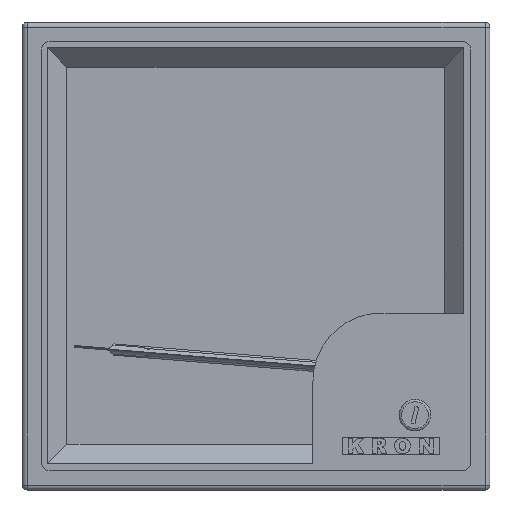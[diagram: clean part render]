
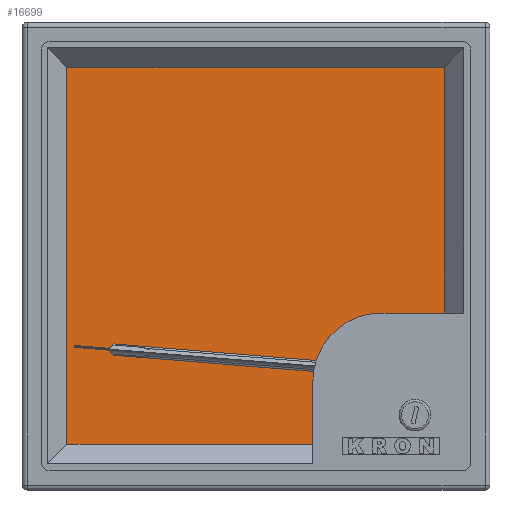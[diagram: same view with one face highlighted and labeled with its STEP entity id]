
A CAD part, top view. The second image highlights one B-rep face of the part: STEP entity #16699.
In plain terms, the highlighted planar face has unit normal (0, 0, 1).
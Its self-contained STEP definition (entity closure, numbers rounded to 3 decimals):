
#979=CIRCLE('',#18068,8.5);
#981=CIRCLE('',#18077,0.3);
#983=CIRCLE('',#18081,0.3);
#985=CIRCLE('',#18085,0.3);
#987=CIRCLE('',#18089,0.3);
#989=CIRCLE('',#18093,0.3);
#991=CIRCLE('',#18097,0.3);
#1830=FACE_OUTER_BOUND('',#2807,.T.);
#2807=EDGE_LOOP('',(#13635,#13636,#13637,#13638,#13639,#13640,#13641,#13642,
#13643,#13644,#13645,#13646,#13647,#13648,#13649,#13650,#13651,#13652,#13653,
#13654,#13655,#13656,#13657,#13658,#13659));
#4330=LINE('',#26961,#6064);
#4333=LINE('',#26967,#6067);
#4336=LINE('',#26973,#6070);
#4340=LINE('',#26985,#6074);
#4343=LINE('',#26991,#6077);
#4346=LINE('',#26997,#6080);
#4349=LINE('',#27003,#6083);
#4352=LINE('',#27009,#6086);
#4355=LINE('',#27015,#6089);
#4359=LINE('',#27027,#6093);
#4363=LINE('',#27039,#6097);
#4367=LINE('',#27051,#6101);
#4371=LINE('',#27063,#6105);
#4375=LINE('',#27075,#6109);
#4379=LINE('',#27087,#6113);
#4382=LINE('',#27093,#6116);
#4385=LINE('',#27099,#6119);
#4388=LINE('',#27103,#6122);
#6064=VECTOR('',#21245,10.);
#6067=VECTOR('',#21250,10.);
#6070=VECTOR('',#21255,10.);
#6074=VECTOR('',#21267,10.);
#6077=VECTOR('',#21272,10.);
#6080=VECTOR('',#21277,10.);
#6083=VECTOR('',#21282,10.);
#6086=VECTOR('',#21287,10.);
#6089=VECTOR('',#21292,10.);
#6093=VECTOR('',#21304,10.);
#6097=VECTOR('',#21316,10.);
#6101=VECTOR('',#21328,10.);
#6105=VECTOR('',#21340,10.);
#6109=VECTOR('',#21352,10.);
#6113=VECTOR('',#21364,10.);
#6116=VECTOR('',#21369,10.);
#6119=VECTOR('',#21374,10.);
#6122=VECTOR('',#21379,10.);
#7625=VERTEX_POINT('',#26958);
#7626=VERTEX_POINT('',#26960);
#7628=VERTEX_POINT('',#26966);
#7630=VERTEX_POINT('',#26972);
#7632=VERTEX_POINT('',#26978);
#7634=VERTEX_POINT('',#26984);
#7636=VERTEX_POINT('',#26990);
#7638=VERTEX_POINT('',#26996);
#7640=VERTEX_POINT('',#27002);
#7642=VERTEX_POINT('',#27008);
#7644=VERTEX_POINT('',#27014);
#7646=VERTEX_POINT('',#27020);
#7648=VERTEX_POINT('',#27026);
#7650=VERTEX_POINT('',#27032);
#7652=VERTEX_POINT('',#27038);
#7654=VERTEX_POINT('',#27044);
#7656=VERTEX_POINT('',#27050);
#7658=VERTEX_POINT('',#27056);
#7660=VERTEX_POINT('',#27062);
#7662=VERTEX_POINT('',#27068);
#7664=VERTEX_POINT('',#27074);
#7666=VERTEX_POINT('',#27080);
#7668=VERTEX_POINT('',#27086);
#7670=VERTEX_POINT('',#27092);
#7672=VERTEX_POINT('',#27098);
#9700=EDGE_CURVE('',#7626,#7625,#4330,.T.);
#9703=EDGE_CURVE('',#7628,#7626,#4333,.T.);
#9706=EDGE_CURVE('',#7630,#7628,#4336,.T.);
#9709=EDGE_CURVE('',#7632,#7630,#979,.T.);
#9712=EDGE_CURVE('',#7634,#7632,#4340,.T.);
#9715=EDGE_CURVE('',#7636,#7634,#4343,.T.);
#9718=EDGE_CURVE('',#7638,#7636,#4346,.T.);
#9721=EDGE_CURVE('',#7640,#7638,#4349,.T.);
#9724=EDGE_CURVE('',#7642,#7640,#4352,.T.);
#9727=EDGE_CURVE('',#7644,#7642,#4355,.T.);
#9730=EDGE_CURVE('',#7646,#7644,#981,.T.);
#9733=EDGE_CURVE('',#7648,#7646,#4359,.T.);
#9736=EDGE_CURVE('',#7650,#7648,#983,.T.);
#9739=EDGE_CURVE('',#7652,#7650,#4363,.T.);
#9742=EDGE_CURVE('',#7654,#7652,#985,.T.);
#9745=EDGE_CURVE('',#7656,#7654,#4367,.T.);
#9748=EDGE_CURVE('',#7658,#7656,#987,.T.);
#9751=EDGE_CURVE('',#7660,#7658,#4371,.T.);
#9754=EDGE_CURVE('',#7662,#7660,#989,.T.);
#9757=EDGE_CURVE('',#7664,#7662,#4375,.T.);
#9760=EDGE_CURVE('',#7666,#7664,#991,.T.);
#9763=EDGE_CURVE('',#7668,#7666,#4379,.T.);
#9766=EDGE_CURVE('',#7670,#7668,#4382,.T.);
#9769=EDGE_CURVE('',#7672,#7670,#4385,.T.);
#9772=EDGE_CURVE('',#7625,#7672,#4388,.T.);
#13635=ORIENTED_EDGE('',*,*,#9772,.T.);
#13636=ORIENTED_EDGE('',*,*,#9769,.T.);
#13637=ORIENTED_EDGE('',*,*,#9766,.T.);
#13638=ORIENTED_EDGE('',*,*,#9763,.T.);
#13639=ORIENTED_EDGE('',*,*,#9760,.T.);
#13640=ORIENTED_EDGE('',*,*,#9757,.T.);
#13641=ORIENTED_EDGE('',*,*,#9754,.T.);
#13642=ORIENTED_EDGE('',*,*,#9751,.T.);
#13643=ORIENTED_EDGE('',*,*,#9748,.T.);
#13644=ORIENTED_EDGE('',*,*,#9745,.T.);
#13645=ORIENTED_EDGE('',*,*,#9742,.T.);
#13646=ORIENTED_EDGE('',*,*,#9739,.T.);
#13647=ORIENTED_EDGE('',*,*,#9736,.T.);
#13648=ORIENTED_EDGE('',*,*,#9733,.T.);
#13649=ORIENTED_EDGE('',*,*,#9730,.T.);
#13650=ORIENTED_EDGE('',*,*,#9727,.T.);
#13651=ORIENTED_EDGE('',*,*,#9724,.T.);
#13652=ORIENTED_EDGE('',*,*,#9721,.T.);
#13653=ORIENTED_EDGE('',*,*,#9718,.T.);
#13654=ORIENTED_EDGE('',*,*,#9715,.T.);
#13655=ORIENTED_EDGE('',*,*,#9712,.T.);
#13656=ORIENTED_EDGE('',*,*,#9709,.T.);
#13657=ORIENTED_EDGE('',*,*,#9706,.T.);
#13658=ORIENTED_EDGE('',*,*,#9703,.T.);
#13659=ORIENTED_EDGE('',*,*,#9700,.T.);
#15934=PLANE('',#18102);
#16699=ADVANCED_FACE('',(#1830),#15934,.T.);
#18068=AXIS2_PLACEMENT_3D('',#26979,#21261,#21262);
#18077=AXIS2_PLACEMENT_3D('',#27021,#21298,#21299);
#18081=AXIS2_PLACEMENT_3D('',#27033,#21310,#21311);
#18085=AXIS2_PLACEMENT_3D('',#27045,#21322,#21323);
#18089=AXIS2_PLACEMENT_3D('',#27057,#21334,#21335);
#18093=AXIS2_PLACEMENT_3D('',#27069,#21346,#21347);
#18097=AXIS2_PLACEMENT_3D('',#27081,#21358,#21359);
#18102=AXIS2_PLACEMENT_3D('',#27104,#21380,#21381);
#21245=DIRECTION('',(0.,1.,0.));
#21250=DIRECTION('',(1.,0.,0.));
#21255=DIRECTION('',(0.,1.,0.));
#21261=DIRECTION('center_axis',(0.,0.,-1.));
#21262=DIRECTION('ref_axis',(-0.176,-0.984,0.));
#21267=DIRECTION('',(-0.834,0.551,0.));
#21272=DIRECTION('',(0.,1.,0.));
#21277=DIRECTION('',(0.962,0.272,0.));
#21282=DIRECTION('',(1.,0.,0.));
#21287=DIRECTION('',(0.,-1.,0.));
#21292=DIRECTION('',(-1.,0.,0.));
#21298=DIRECTION('center_axis',(0.,0.,1.));
#21299=DIRECTION('ref_axis',(1.,0.,0.));
#21304=DIRECTION('',(0.,1.,0.));
#21310=DIRECTION('center_axis',(0.,0.,-1.));
#21311=DIRECTION('ref_axis',(1.,0.,0.));
#21316=DIRECTION('',(-1.,0.,0.));
#21322=DIRECTION('center_axis',(0.,0.,-1.));
#21323=DIRECTION('ref_axis',(0.,1.,0.));
#21328=DIRECTION('',(0.,-1.,0.));
#21334=DIRECTION('center_axis',(0.,0.,-1.));
#21335=DIRECTION('ref_axis',(-1.,0.,0.));
#21340=DIRECTION('',(1.,0.,0.));
#21346=DIRECTION('center_axis',(0.,0.,-1.));
#21347=DIRECTION('ref_axis',(0.,-1.,0.));
#21352=DIRECTION('',(0.,1.,0.));
#21358=DIRECTION('center_axis',(0.,0.,1.));
#21359=DIRECTION('ref_axis',(0.,-1.,0.));
#21364=DIRECTION('',(1.,0.,0.));
#21369=DIRECTION('',(0.,-1.,0.));
#21374=DIRECTION('',(-1.,0.,0.));
#21379=DIRECTION('',(-0.707,0.707,0.));
#21380=DIRECTION('center_axis',(0.,0.,1.));
#21381=DIRECTION('ref_axis',(1.,0.,0.));
#26958=CARTESIAN_POINT('',(87.082,80.868,0.5));
#26960=CARTESIAN_POINT('',(87.082,29.368,0.5));
#26961=CARTESIAN_POINT('',(87.082,29.368,0.5));
#26966=CARTESIAN_POINT('',(70.882,29.368,0.5));
#26967=CARTESIAN_POINT('',(70.882,29.368,0.5));
#26972=CARTESIAN_POINT('',(70.882,27.368,0.5));
#26973=CARTESIAN_POINT('',(70.882,27.368,0.5));
#26978=CARTESIAN_POINT('',(71.481,10.764,0.5));
#26979=CARTESIAN_POINT('Origin',(69.382,19.001,0.5));
#26984=CARTESIAN_POINT('',(77.382,6.868,0.5));
#26985=CARTESIAN_POINT('',(77.382,6.868,0.5));
#26990=CARTESIAN_POINT('',(77.382,2.368,0.5));
#26991=CARTESIAN_POINT('',(77.382,2.368,0.5));
#26996=CARTESIAN_POINT('',(72.082,0.868,0.5));
#26997=CARTESIAN_POINT('',(72.082,0.868,0.5));
#27002=CARTESIAN_POINT('',(1.382,0.868,0.5));
#27003=CARTESIAN_POINT('',(1.382,0.868,0.5));
#27008=CARTESIAN_POINT('',(1.382,41.918,0.5));
#27009=CARTESIAN_POINT('',(1.382,41.918,0.5));
#27014=CARTESIAN_POINT('',(2.082,41.918,0.5));
#27015=CARTESIAN_POINT('',(2.082,41.918,0.5));
#27020=CARTESIAN_POINT('',(2.382,41.618,0.5));
#27021=CARTESIAN_POINT('Origin',(2.082,41.618,0.5));
#27026=CARTESIAN_POINT('',(2.382,41.168,0.5));
#27027=CARTESIAN_POINT('',(2.382,41.168,0.5));
#27032=CARTESIAN_POINT('',(2.682,40.868,0.5));
#27033=CARTESIAN_POINT('Origin',(2.682,41.168,0.5));
#27038=CARTESIAN_POINT('',(3.082,40.868,0.5));
#27039=CARTESIAN_POINT('',(3.082,40.868,0.5));
#27044=CARTESIAN_POINT('',(3.382,41.168,0.5));
#27045=CARTESIAN_POINT('Origin',(3.082,41.168,0.5));
#27050=CARTESIAN_POINT('',(3.382,44.568,0.5));
#27051=CARTESIAN_POINT('',(3.382,44.568,0.5));
#27056=CARTESIAN_POINT('',(3.082,44.868,0.5));
#27057=CARTESIAN_POINT('Origin',(3.082,44.568,0.5));
#27062=CARTESIAN_POINT('',(2.682,44.868,0.5));
#27063=CARTESIAN_POINT('',(2.682,44.868,0.5));
#27068=CARTESIAN_POINT('',(2.382,44.568,0.5));
#27069=CARTESIAN_POINT('Origin',(2.682,44.568,0.5));
#27074=CARTESIAN_POINT('',(2.382,44.118,0.5));
#27075=CARTESIAN_POINT('',(2.382,44.118,0.5));
#27080=CARTESIAN_POINT('',(2.082,43.818,0.5));
#27081=CARTESIAN_POINT('Origin',(2.082,44.118,0.5));
#27086=CARTESIAN_POINT('',(1.382,43.818,0.5));
#27087=CARTESIAN_POINT('',(1.382,43.818,0.5));
#27092=CARTESIAN_POINT('',(1.382,84.868,0.5));
#27093=CARTESIAN_POINT('',(1.382,84.868,0.5));
#27098=CARTESIAN_POINT('',(83.082,84.868,0.5));
#27099=CARTESIAN_POINT('',(83.082,84.868,0.5));
#27103=CARTESIAN_POINT('',(87.082,80.868,0.5));
#27104=CARTESIAN_POINT('Origin',(44.232,42.868,0.5));
